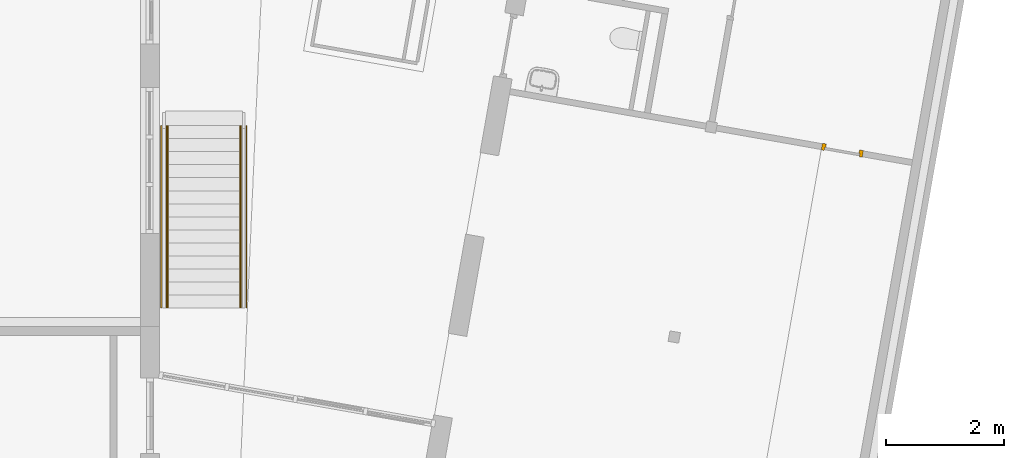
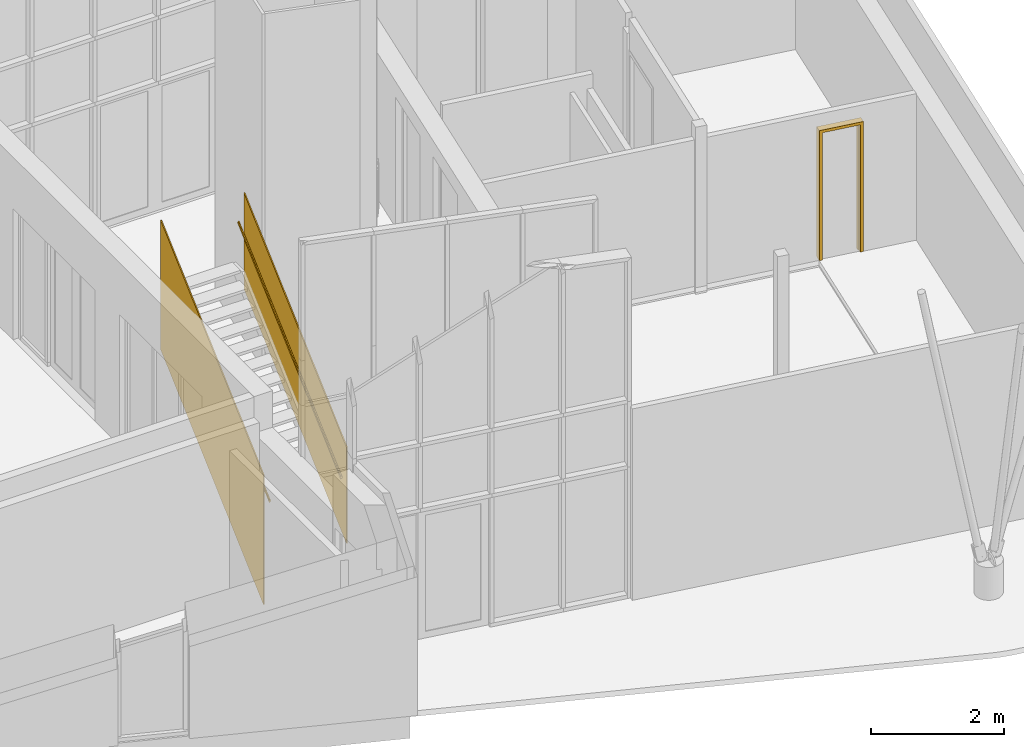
# One storey, part 19 of 21: 2 railings, 1 door, 1 element without a shape of its own.
"""IFC2X3 building model written with IfcOpenShell, lengths in millimetres."""

from ifc_helpers import new_model, entity, si_unit, converted_unit, derived_unit, direction, frame, origin, place, context, subcontext, project, spatial, faceted_brep, source, transform, mapped, material, type_object, type_shapes, element, aggregate, save


model = new_model("IFC2X3")

# Units and contexts
model_context = context("Model", 3, precision=0.01, world=origin(), true_north=direction((6.12303176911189e-17, 1.0)))
body_context = subcontext(model_context, "Body", "Model", "MODEL_VIEW")
ifc_project = project(units=[si_unit("LENGTHUNIT", "METRE", prefix="MILLI"), si_unit("AREAUNIT", "SQUARE_METRE"), si_unit("VOLUMEUNIT", "CUBIC_METRE"), converted_unit("PLANEANGLEUNIT", "DEGREE", entity("IfcRatioMeasure", 0.0174532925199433), si_unit("PLANEANGLEUNIT", "RADIAN"), dimensions=[0, 0, 0, 0, 0, 0, 0]), si_unit("MASSUNIT", "GRAM", prefix="KILO"), derived_unit("MASSDENSITYUNIT", [(si_unit("MASSUNIT", "GRAM", prefix="KILO"), 1), (si_unit("LENGTHUNIT", "METRE"), -3)]), si_unit("TIMEUNIT", "SECOND"), si_unit("FREQUENCYUNIT", "HERTZ"), si_unit("THERMODYNAMICTEMPERATUREUNIT", "DEGREE_CELSIUS"), derived_unit("THERMALTRANSMITTANCEUNIT", [(si_unit("MASSUNIT", "GRAM", prefix="KILO"), 1), (si_unit("THERMODYNAMICTEMPERATUREUNIT", "KELVIN"), -1), (si_unit("TIMEUNIT", "SECOND"), -3)]), derived_unit("VOLUMETRICFLOWRATEUNIT", [(si_unit("LENGTHUNIT", "METRE"), 3), (si_unit("TIMEUNIT", "SECOND"), -1)]), si_unit("ELECTRICCURRENTUNIT", "AMPERE"), si_unit("ELECTRICVOLTAGEUNIT", "VOLT"), si_unit("POWERUNIT", "WATT"), si_unit("FORCEUNIT", "NEWTON", prefix="KILO"), si_unit("ILLUMINANCEUNIT", "LUX"), si_unit("LUMINOUSFLUXUNIT", "LUMEN"), si_unit("LUMINOUSINTENSITYUNIT", "CANDELA"), derived_unit("USERDEFINED", [(si_unit("MASSUNIT", "GRAM", prefix="KILO"), -1), (si_unit("LENGTHUNIT", "METRE"), -2), (si_unit("TIMEUNIT", "SECOND"), 3), (si_unit("LUMINOUSFLUXUNIT", "LUMEN"), 1)]), derived_unit("LINEARVELOCITYUNIT", [(si_unit("LENGTHUNIT", "METRE"), 1), (si_unit("TIMEUNIT", "SECOND"), -1)]), si_unit("PRESSUREUNIT", "PASCAL"), derived_unit("USERDEFINED", [(si_unit("LENGTHUNIT", "METRE"), -2), (si_unit("MASSUNIT", "GRAM", prefix="KILO"), 1), (si_unit("TIMEUNIT", "SECOND"), -2)])], contexts=[model_context])

# Site, building, storey
site_placement = place(None, origin())
site = spatial("IfcSite", under=ifc_project, at=site_placement, Name="<Kadaster Gemeente>;<Kadaster nummer>;<Kadaster sectie>", CompositionType="ELEMENT")
building_placement = place(site_placement, origin())
building = spatial("IfcBuilding", under=site, at=building_placement, Name="JRCZ Middelburg", CompositionType="ELEMENT")
storey_placement = place(building_placement, origin())
storey = spatial("IfcBuildingStorey", under=building, at=storey_placement, Name="00 begane grond", CompositionType="ELEMENT", Elevation=0.0)

# Door
door_style = type_object("IfcDoorStyle", Name="enkele deur_gen", ConstructionType="USERDEFINED", OperationType="NOTDEFINED", ParameterTakesPrecedence=False, Sizeable=False)
shared_shape = source(origin(), body_context, "Body", "Brep", [
    faceted_brep([(302.0, 0.0, 0.0), (352.0, 0.0, 0.0), (352.0, -114.0, 0.0), (285.0, -114.0, 0.0), (285.0, -54.0, 0.0), (302.0, -54.0, 0.0), (302.0, 0.0, 2327.0), (302.0, -54.0, 2310.0), (302.0, -54.0, 2327.0), (285.0, -54.0, 2310.0), (285.0, -114.0, 2310.0), (352.0, -114.0, 2310.0), (352.0, 0.0, 2327.0), (352.0, -54.0, 2327.0), (352.0, -54.0, 2310.0)], [[[0, 1, 2, 3, 4, 5]], [[6, 0, 5, 7, 8]], [[4, 9, 7, 5]], [[3, 10, 9, 4]], [[2, 11, 10, 3]], [[1, 12, 13, 14, 11, 2]], [[12, 1, 0, 6]], [[6, 8, 13, 12]], [[7, 9, 10, 11, 14]], [[14, 13, 8, 7]]]),
    faceted_brep([(-352.0, 0.0, 2327.0), (-352.0, -54.0, 2327.0), (-352.0, -54.0, 2310.0), (-352.0, -114.0, 2310.0), (-352.0, -114.0, 2377.0), (-352.0, 0.0, 2377.0), (352.0, 0.0, 2327.0), (352.0, 0.0, 2377.0), (352.0, -114.0, 2377.0), (352.0, -114.0, 2310.0), (352.0, -54.0, 2310.0), (352.0, -54.0, 2327.0)], [[[0, 1, 2, 3, 4, 5]], [[6, 7, 8, 9, 10, 11]], [[1, 0, 6, 11]], [[2, 1, 11, 10]], [[3, 2, 10, 9]], [[4, 3, 9, 8]], [[5, 4, 8, 7]], [[0, 5, 7, 6]]]),
    faceted_brep([(-302.0, 0.0, 0.0), (-302.0, -54.0, 0.0), (-285.0, -54.0, 0.0), (-285.0, -114.0, 0.0), (-352.0, -114.0, 0.0), (-352.0, 0.0, 0.0), (-302.0, 0.0, 2327.0), (-302.0, -54.0, 2327.0), (-302.0, -54.0, 2310.0), (-285.0, -54.0, 2310.0), (-285.0, -114.0, 2310.0), (-352.0, -114.0, 2310.0), (-352.0, -54.0, 2310.0), (-352.0, -54.0, 2327.0), (-352.0, 0.0, 2327.0)], [[[0, 1, 2, 3, 4, 5]], [[6, 7, 8, 1, 0]], [[2, 1, 8, 9]], [[3, 2, 9, 10]], [[4, 3, 10, 11]], [[5, 4, 11, 12, 13, 14]], [[14, 6, 0, 5]], [[6, 14, 13, 7]], [[8, 12, 11, 10, 9]], [[12, 8, 7, 13]]]),
])
type_shapes(door_style, [shared_shape])
door_placement = place(storey_placement, frame((28894.8994740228, 12918.5758047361, 0.0), z_axis=(0.0, 0.0, 1.0), x_axis=(-0.984807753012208, 0.173648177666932, 0.0)))
element("IfcDoor", 1, at=door_placement, inside=storey, type_object=door_style, Name="NLRS_32_DO_UN_samenstelling binnenkozijn hout-SH_generiek_ISR:enkele deur_gen", ObjectType="NLRS_32_DO_UN_samenstelling binnenkozijn hout-SH_generiek_ISR:enkele deur_gen", OverallHeight=2377.00000000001, OverallWidth=704.000000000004, context=body_context, shape_type="MappedRepresentation", body=[
    mapped(shared_shape, transform((0.0, 0.0, 0.0), scale=1.0)),
])

# Stair, railings
stair_placement = place(storey_placement, origin())
stair = element("IfcStair", 2, at=stair_placement, inside=storey, Name="Assembled Stair:Stair", ObjectType="Assembled Stair:RBM_ST_houten trap", ShapeType="NOTDEFINED")
ifc_material = material(Name="Glass_RIPO")
railing_1_placement = place(stair_placement, frame((18716.1547277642, 10310.6069519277, -156.899033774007)))
railing_1 = element("IfcRailing", 3, at=railing_1_placement, material=ifc_material, Name="Railing:RBM_RA_glasbalustrade 02 TRAP", ObjectType="Railing:RBM_RA_glasbalustrade 02 TRAP", PredefinedType="NOTDEFINED", context=body_context, shape_type="Brep", body=[
    faceted_brep([(131.845272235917, 0.0, 1756.89903377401), (111.845272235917, 0.0, 1756.89903377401), (111.845272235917, 0.0, 0.0), (131.845272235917, 0.0, 0.0), (131.845272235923, 3080.0, 4556.89903377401), (131.845272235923, 3080.0, 2800.0), (111.845272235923, 3080.0, 2800.0), (111.845272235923, 3080.0, 4556.89903377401)], [[[0, 1, 2, 3]], [[4, 5, 6, 7]], [[1, 0, 4, 7]], [[2, 1, 7, 6]], [[3, 2, 6, 5]], [[0, 3, 5, 4]]]),
    faceted_brep([(32.5515222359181, 0.0, 1228.83162447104), (34.9327722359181, 0.0, 1234.40565152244), (37.3140222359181, 0.0, 1239.97967857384), (39.6952722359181, 0.0, 1245.55370562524), (37.8430586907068, 0.0, 1249.88936479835), (35.9908451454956, 0.0, 1254.22502397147), (33.0805586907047, 0.0, 1261.03741890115), (30.1702722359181, 0.0, 1267.84981383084), (25.4077722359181, 0.0, 1267.84981383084), (20.6452722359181, 0.0, 1267.84981383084), (15.8827722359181, 0.0, 1267.84981383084), (11.1202722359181, 0.0, 1267.84981383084), (8.73902223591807, 0.0, 1262.27578677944), (6.35777223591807, 0.0, 1256.70175972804), (3.44748578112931, 0.0, 1249.88936479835), (1.59527223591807, 0.0, 1245.55370562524), (3.97652223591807, 0.0, 1239.97967857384), (6.35777223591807, 0.0, 1234.40565152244), (8.73902223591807, 0.0, 1228.83162447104), (11.1202722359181, 0.0, 1223.25759741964), (15.8827722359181, 0.0, 1223.25759741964), (20.6452722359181, 0.0, 1223.25759741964), (25.4077722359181, 0.0, 1223.25759741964), (30.1702722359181, 0.0, 1223.25759741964), (11.1202722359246, 3080.0, 4023.25759741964), (8.20998578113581, 3080.0, 4030.06999234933), (5.29969932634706, 3080.0, 4036.88238727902), (3.44748578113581, 3080.0, 4041.21804645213), (1.59527223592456, 3080.0, 4045.55370562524), (3.97652223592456, 3080.0, 4051.12773267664), (6.35777223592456, 3080.0, 4056.70175972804), (8.73902223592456, 3080.0, 4062.27578677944), (11.1202722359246, 3080.0, 4067.84981383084), (15.8827722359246, 3080.0, 4067.84981383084), (20.6452722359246, 3080.0, 4067.84981383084), (25.4077722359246, 3080.0, 4067.84981383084), (30.1702722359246, 3080.0, 4067.84981383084), (32.5515222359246, 3080.0, 4062.27578677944), (34.9327722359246, 3080.0, 4056.70175972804), (37.3140222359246, 3080.0, 4051.12773267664), (39.6952722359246, 3080.0, 4045.55370562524), (37.8430586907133, 3080.0, 4041.21804645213), (34.9327722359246, 3080.0, 4034.40565152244), (32.5515222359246, 3080.0, 4028.83162447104), (30.1702722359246, 3080.0, 4023.25759741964), (25.4077722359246, 3080.0, 4023.25759741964), (20.6452722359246, 3080.0, 4023.25759741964), (15.8827722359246, 3080.0, 4023.25759741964)], [[[0, 1, 2, 3, 4, 5, 6, 7, 8, 9, 10, 11, 12, 13, 14, 15, 16, 17, 18, 19, 20, 21, 22, 23]], [[24, 25, 26, 27, 28, 29, 30, 31, 32, 33, 34, 35, 36, 37, 38, 39, 40, 41, 42, 43, 44, 45, 46, 47]], [[7, 6, 5, 4, 3, 40, 39, 38, 37, 36]], [[13, 12, 11, 32, 31, 30, 29, 28, 15, 14]], [[9, 8, 7, 36, 35, 34, 33, 32, 11, 10]], [[24, 19, 18, 17, 16, 15, 28, 27, 26, 25]], [[45, 44, 23, 22, 21, 20, 19, 24, 47, 46]], [[41, 40, 3, 2, 1, 0, 23, 44, 43, 42]]]),
])
railing_2_placement = place(stair_placement, frame((17388.0, 10310.6069519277, -765.056391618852)))
railing_2 = element("IfcRailing", 4, at=railing_2_placement, material=ifc_material, Name="Railing:RBM_RA_glasbalustrade", ObjectType="Railing:RBM_RA_glasbalustrade", PredefinedType="NOTDEFINED", context=body_context, shape_type="Brep", body=[
    faceted_brep([(0.0, 0.0, 2365.05639161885), (0.0, 0.0, 0.0), (20.0, 0.0, 0.0), (20.0, 0.0, 2365.05639161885), (0.0, 3080.0, 5165.05639161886), (20.0, 3080.0, 5165.05639161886), (20.0, 3080.0, 2800.0), (0.0, 3080.0, 2800.0)], [[[0, 1, 2, 3]], [[4, 5, 6, 7]], [[1, 0, 4, 7]], [[2, 1, 7, 6]], [[3, 2, 6, 5]], [[0, 3, 5, 4]]]),
    faceted_brep([(123.106250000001, 0.0, 1836.98898231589), (125.487499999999, 0.0, 1842.56300936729), (127.868750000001, 0.0, 1848.13703641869), (130.249999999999, 0.0, 1853.71106347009), (128.397786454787, 0.0, 1858.0467226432), (126.545572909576, 0.0, 1862.38238181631), (123.635286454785, 0.0, 1869.194776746), (120.724999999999, 0.0, 1876.00717167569), (115.962499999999, 0.0, 1876.00717167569), (111.199999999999, 0.0, 1876.00717167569), (106.437499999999, 0.0, 1876.00717167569), (101.674999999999, 0.0, 1876.00717167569), (99.2937499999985, 0.0, 1870.43314462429), (96.9124999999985, 0.0, 1864.85911757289), (94.0022135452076, 0.0, 1858.0467226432), (92.1499999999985, 0.0, 1853.71106347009), (94.5312499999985, 0.0, 1848.13703641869), (96.9124999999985, 0.0, 1842.56300936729), (99.2937500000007, 0.0, 1836.98898231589), (101.674999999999, 0.0, 1831.41495526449), (106.437499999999, 0.0, 1831.41495526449), (111.199999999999, 0.0, 1831.41495526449), (115.962499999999, 0.0, 1831.41495526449), (120.724999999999, 0.0, 1831.41495526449), (101.675000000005, 3080.0, 4631.4149552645), (98.7647135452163, 3080.0, 4638.22735019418), (95.8544270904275, 3080.0, 4645.03974512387), (94.0022135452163, 3080.0, 4649.37540429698), (92.150000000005, 3080.0, 4653.71106347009), (94.531250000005, 3080.0, 4659.28509052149), (96.912500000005, 3080.0, 4664.85911757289), (99.293750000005, 3080.0, 4670.43314462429), (101.675000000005, 3080.0, 4676.00717167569), (106.437500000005, 3080.0, 4676.00717167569), (111.200000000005, 3080.0, 4676.00717167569), (115.962500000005, 3080.0, 4676.00717167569), (120.725000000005, 3080.0, 4676.00717167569), (123.106250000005, 3080.0, 4670.43314462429), (125.487500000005, 3080.0, 4664.85911757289), (127.868750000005, 3080.0, 4659.28509052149), (130.250000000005, 3080.0, 4653.71106347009), (128.397786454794, 3080.0, 4649.37540429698), (125.487500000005, 3080.0, 4642.5630093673), (123.106250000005, 3080.0, 4636.9889823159), (120.725000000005, 3080.0, 4631.4149552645), (115.962500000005, 3080.0, 4631.4149552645), (111.200000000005, 3080.0, 4631.4149552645), (106.437500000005, 3080.0, 4631.4149552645)], [[[0, 1, 2, 3, 4, 5, 6, 7, 8, 9, 10, 11, 12, 13, 14, 15, 16, 17, 18, 19, 20, 21, 22, 23]], [[24, 25, 26, 27, 28, 29, 30, 31, 32, 33, 34, 35, 36, 37, 38, 39, 40, 41, 42, 43, 44, 45, 46, 47]], [[7, 6, 5, 4, 3, 40, 39, 38, 37, 36]], [[13, 12, 11, 32, 31, 30, 29, 28, 15, 14]], [[9, 8, 7, 36, 35, 34, 33, 32, 11, 10]], [[24, 19, 18, 17, 16, 15, 28, 27, 26, 25]], [[45, 44, 23, 22, 21, 20, 19, 24, 47, 46]], [[41, 40, 3, 2, 1, 0, 23, 44, 43, 42]]]),
])
aggregate(stair, [railing_1, railing_2])

save(model, "model.ifc")
